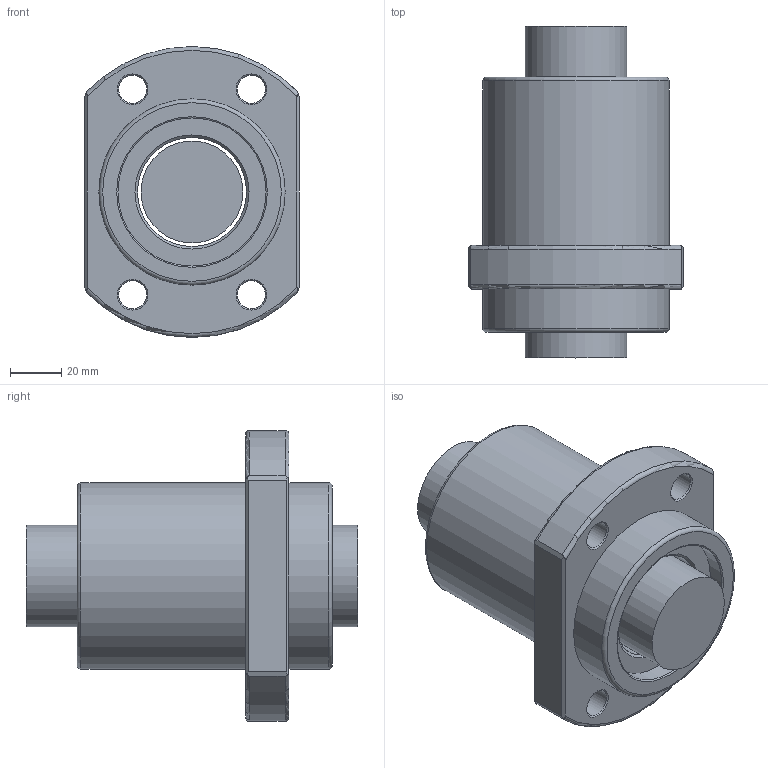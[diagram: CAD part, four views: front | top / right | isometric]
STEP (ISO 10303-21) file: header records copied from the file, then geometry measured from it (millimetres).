
FILE_DESCRIPTION(/* description */ (''),/* implementation_level */ '2;1');
FILE_NAME(/* name */ '4040.prt.step',/* time_stamp */ '2008-12-05T09:32:00+08:00',/* author */ (''),/* organization */ (''),/* preprocessor_version */ 'ST-DEVELOPER v11',/* originating_system */ 'SIEMENS UGS NX 6.0',/* authorisation */ '');
FILE_SCHEMA (('AUTOMOTIVE_DESIGN { 1 0 10303 214 1 1 1 1 }'));
Length unit declared in the file: millimetre
Products named in the file (1): 4040
Bounding box: 84 x 130 x 114 mm (x, y, z)
Volume: 489993.4 mm3; surface area: 72679 mm2
Topology: 2 solids, 2 shells, 52 faces, 120 edges, 76 vertices
Faces by surface type: plane 18, cylinder 12, cone 10, torus 8, bspline 4
Full cylindrical faces by diameter (mm): 11 x4, 39.95 x1, 42.7 x1, 58 x2, 73 x2
Entity records: 1601 total; most frequent: CARTESIAN_POINT 522, DIRECTION 204, ORIENTED_EDGE 184, EDGE_CURVE 92, AXIS2_PLACEMENT_3D 91, EDGE_LOOP 90, VERTEX_POINT 72, FACE_BOUND 68
